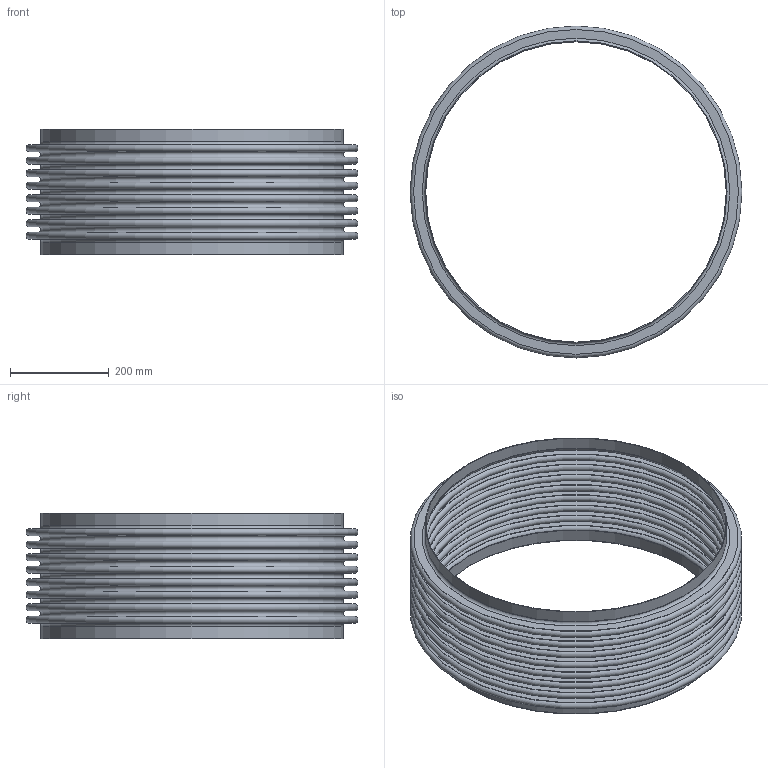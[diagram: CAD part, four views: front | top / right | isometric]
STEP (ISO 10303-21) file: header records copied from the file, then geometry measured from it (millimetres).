
FILE_DESCRIPTION(/* description */ ('STOCK BELLOWS: U.S-24-8-150S, 24.000 I.D., 26.500 O.D., 1 PLY, 16 GA (0.060 THICK), 8 CONS., 1.000 PITCH, 1.000 TANGENT. '),/* implementation_level */ '2;1');
FILE_NAME(/* name */ 'STOCK BELLOW - US-24-8-150S.stp',/* time_stamp */ '2026-07-21T13:07:12-05:00',/* author */ ('KennethB'),/* organization */ (''),/* preprocessor_version */ 'ST-DEVELOPER v20.1',/* originating_system */ 'Autodesk Inventor 2026',/* authorisation */ '');
FILE_SCHEMA (('AUTOMOTIVE_DESIGN { 1 0 10303 214 3 1 1 }'));
Length unit declared in the file: inch
Products named in the file (1): STOCK BELLOW - US-24-8-150S
Bounding box: 673.1 x 673.1 x 254 mm (x, y, z)
Volume: 1989803 mm3; surface area: 2628845.7 mm2
Topology: 3 solids, 3 shells, 76 faces, 114 edges, 77 vertices
Faces by surface type: plane 38, torus 34, cylinder 4
Full cylindrical faces by diameter (mm): 609.6 x2, 612.648 x2
Entity records: 1814 total; most frequent: DIRECTION 378, CARTESIAN_POINT 268, ORIENTED_EDGE 228, AXIS2_PLACEMENT_3D 187, EDGE_LOOP 114, EDGE_CURVE 114, CIRCLE 110, FACE_OUTER_BOUND 76
